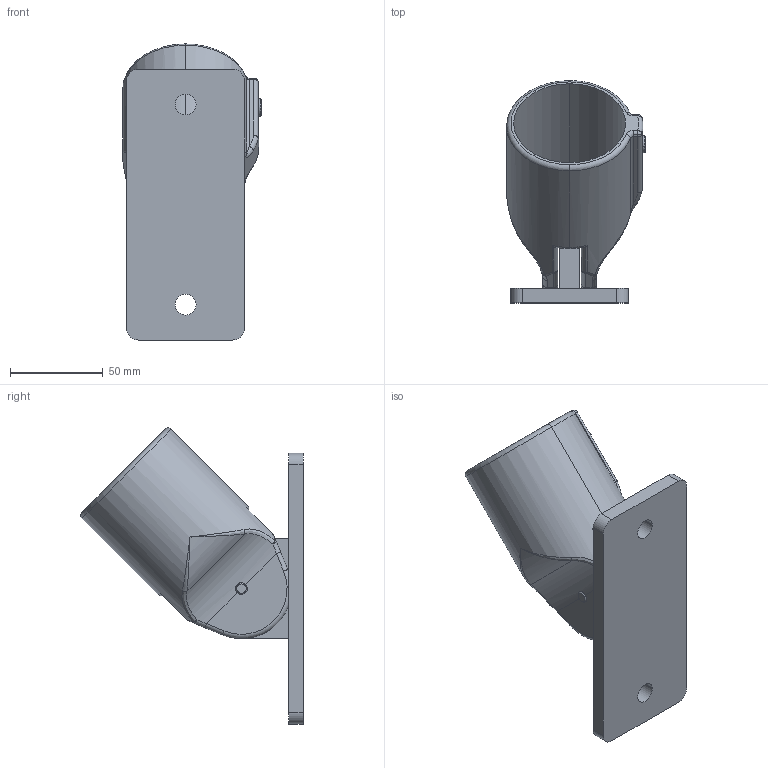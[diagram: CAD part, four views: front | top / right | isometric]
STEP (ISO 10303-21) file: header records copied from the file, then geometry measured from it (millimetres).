
FILE_DESCRIPTION(/* description */ ('(C) Elphel, Inc. 2012. Licensed under CERN OHL v.1.1 or later, see http://ohwr.org/cernohl'),/* implementation_level */ '2;1');
FILE_NAME(/* name */ '0353-80-10',/* time_stamp */ '2012-06-10T23:04:11-06:00',/* author */ (''),/* organization */ ('Elphel, Inc'),/* preprocessor_version */ 'ST-DEVELOPER v12',/* originating_system */ 'VariCAD 2012-1.04; kernel version (20100102)',/* authorisation */ '');
FILE_SCHEMA (('AUTOMOTIVE_DESIGN'));
Length unit declared in the file: millimetre
Products named in the file (1): Part
Bounding box: 74.79 x 119.88 x 159.63 mm (x, y, z)
Volume: 219290.1 mm3; surface area: 71772.8 mm2
Topology: 2 solids, 2 shells, 152 faces, 377 edges, 229 vertices
Faces by surface type: cylinder 62, plane 33, bspline 22, torus 16, sphere 13, cone 6
Entity records: 8011 total; most frequent: CARTESIAN_POINT 4608, ORIENTED_EDGE 748, DIRECTION 638, EDGE_CURVE 374, AXIS2_PLACEMENT_3D 255, VERTEX_POINT 229, EDGE_LOOP 167, ADVANCED_FACE 152
